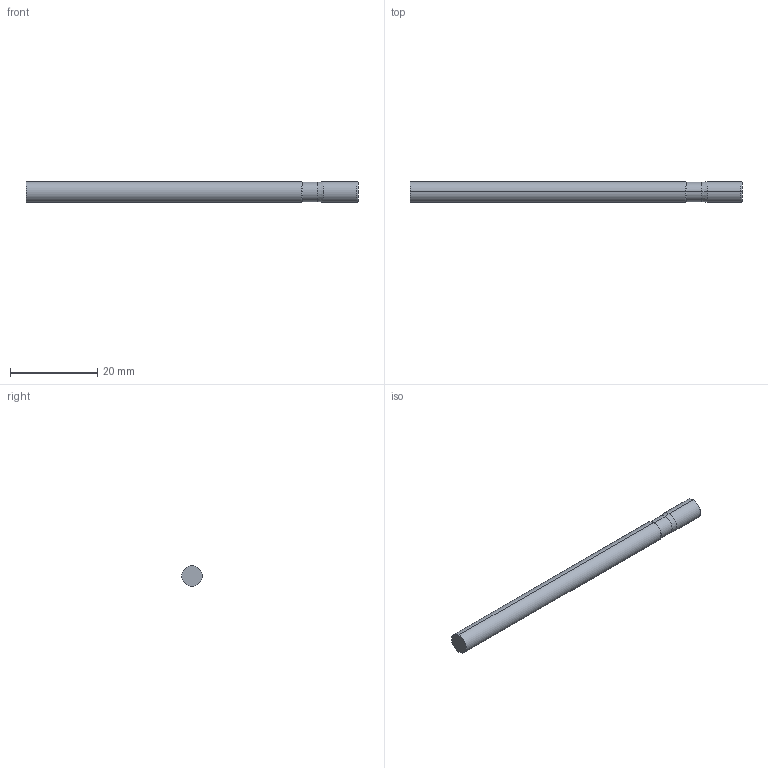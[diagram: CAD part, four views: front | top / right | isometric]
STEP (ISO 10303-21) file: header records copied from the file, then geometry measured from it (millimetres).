
FILE_DESCRIPTION (( 'STEP AP214' ), '1' );
FILE_NAME ('SSIRN50187-010.STEP', '2025-05-27T20:35:31', ( '' ), ( '' ), 'SwSTEP 2.0', 'SolidWorks 2023', '' );
FILE_SCHEMA (( 'AUTOMOTIVE_DESIGN' ));
Length unit declared in the file: inch
Products named in the file (3): SSIRN50187-010; SSI5 Imperial SHANK ONLY_SSIRN50187-010; SSI5 Imperial LOC ONLY_SSIRN50187-010
Assembly tree (2 placements, depth 2):
  SSIRN50187-010
    SSI5 Imperial LOC ONLY_SSIRN50187-010
    SSI5 Imperial SHANK ONLY_SSIRN50187-010
Bounding box: 76.2 x 4.76 x 4.76 mm (x, y, z)
Volume: 1346.7 mm3; surface area: 1205.6 mm2
Topology: 2 solids, 2 shells, 18 faces, 32 edges, 18 vertices
Faces by surface type: cylinder 6, cone 6, plane 4, torus 2
Entity records: 612 total; most frequent: DIRECTION 98, CARTESIAN_POINT 73, ORIENTED_EDGE 64, AXIS2_PLACEMENT_3D 43, EDGE_CURVE 32, CIRCLE 20, VERTEX_POINT 18, EDGE_LOOP 18
